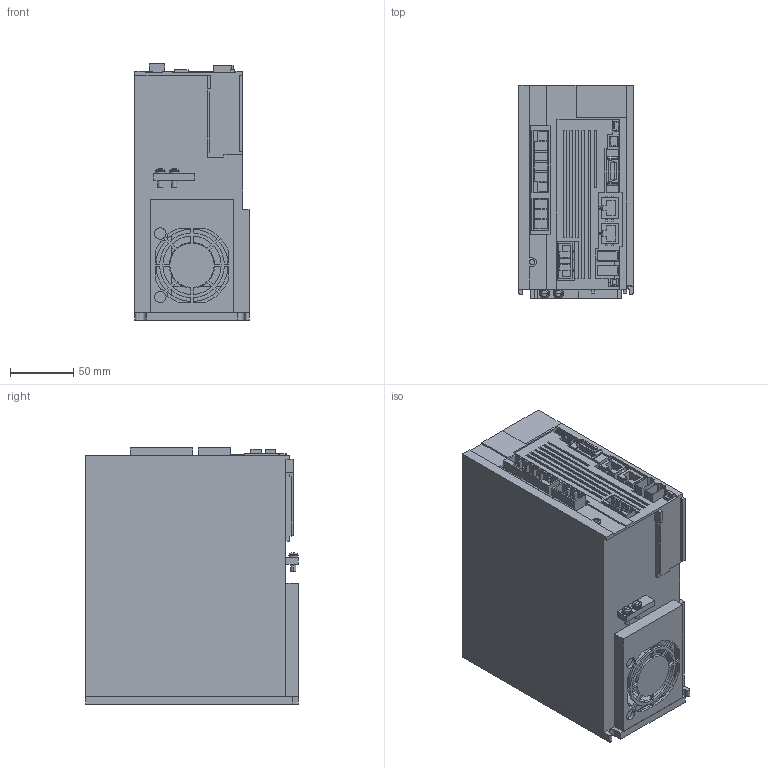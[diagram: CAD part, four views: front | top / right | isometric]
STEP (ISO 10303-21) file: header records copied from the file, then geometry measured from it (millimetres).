
FILE_DESCRIPTION((''),'2;1');
FILE_NAME('MR-J4-350GFRJA_ASM','2015-10-22T',('ZZ86203'),(''),'PRO/ENGINEER BY PARAMETRIC TECHNOLOGY CORPORATION, 2014310','PRO/ENGINEER BY PARAMETRIC TECHNOLOGY CORPORATION, 2014310','');
FILE_SCHEMA(('CONFIG_CONTROL_DESIGN'));
Length unit declared in the file: millimetre
Products named in the file (19): J4-350-CHASSIS; J4-350GFRJ-CASE; J4-200-350-FANCOVER; J4GF-LENZ; J4GF-CN1A; J4GF-CN1B; J4GF-CN2; J4GF-CN3; J4GF-CN4; J4GF-CN5; J4GFRJ-CN7; J4GF-CN8; J4GFRJ-CN9; J4-200-350-CNP1; J4-CNP2; J4-200-350-CNP3; FAN60; SW-PW-P-NA-M4X12-PE; MR-J4-350GFRJA_ASM
Assembly tree (20 placements, depth 2):
  MR-J4-350GFRJA_ASM
    J4-350-CHASSIS
    J4-350GFRJ-CASE
    J4-200-350-FANCOVER
    J4GF-LENZ
    J4GF-CN1A
    J4GF-CN1B
    J4GF-CN2  x2
    J4GF-CN3
    J4GF-CN4
    J4GF-CN5
    J4GFRJ-CN7
    J4GF-CN8
    J4GFRJ-CN9
    J4-200-350-CNP1
    J4-CNP2
    J4-200-350-CNP3
    FAN60
    SW-PW-P-NA-M4X12-PE  x2
Bounding box: 90 x 168 x 202.1 mm (x, y, z)
Volume: 439932.2 mm3; surface area: 302005.7 mm2
Topology: 22 solids, 22 shells, 766 faces, 2062 edges, 1369 vertices
Faces by surface type: plane 661, cylinder 93, cone 4, torus 4, sphere 4
Entity records: 23218 total; most frequent: CARTESIAN_POINT 4068, ORIENTED_EDGE 3960, DIRECTION 3716, EDGE_CURVE 1980, VECTOR 1784, LINE 1784, VERTEX_POINT 1318, AXIS2_PLACEMENT_3D 966
